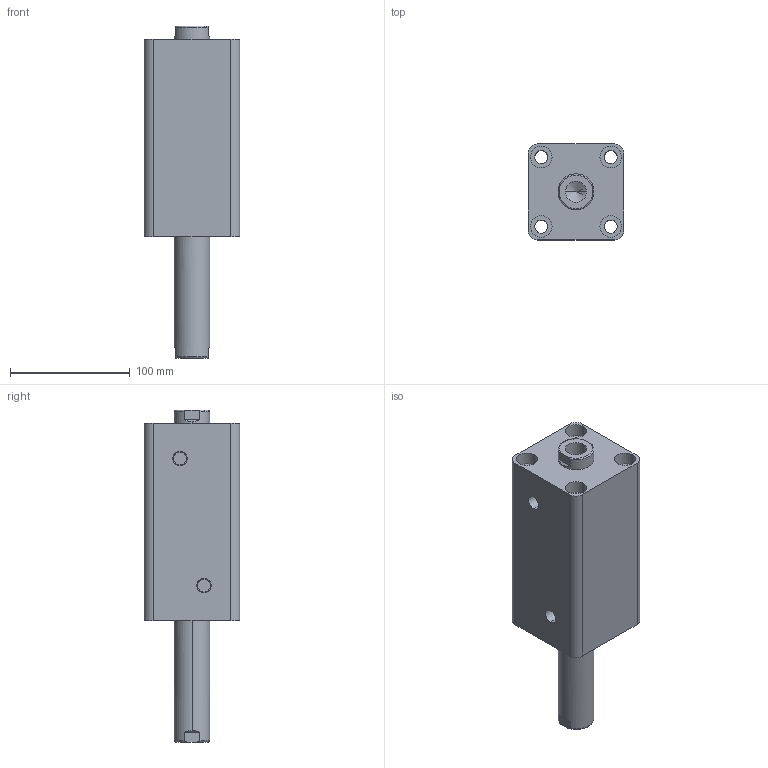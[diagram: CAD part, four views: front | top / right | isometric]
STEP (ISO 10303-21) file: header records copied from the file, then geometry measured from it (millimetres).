
FILE_DESCRIPTION (( 'STEP AP203' ), '1' );
FILE_NAME ('HTB-SW50-90N.STEP', '2019-10-07T09:25:00', ( '微软用户' ), ( '微软中国' ), 'SwSTEP 2.0', 'SolidWorks 2012', '' );
FILE_SCHEMA (( 'CONFIG_CONTROL_DESIGN' ));
Length unit declared in the file: millimetre
Products named in the file (3): HTB-SW50-90N; HTB-SW50-90N活塞杆; HTB-SW50-90掛极
Assembly tree (2 placements, depth 2):
  HTB-SW50-90N
    HTB-SW50-90掛极
    HTB-SW50-90N活塞杆
Bounding box: 80 x 80 x 277 mm (x, y, z)
Volume: 920874.5 mm3; surface area: 145581.3 mm2
Topology: 2 solids, 2 shells, 100 faces, 228 edges, 146 vertices
Faces by surface type: cylinder 48, plane 32, torus 12, cone 8
Entity records: 3237 total; most frequent: CARTESIAN_POINT 595, DIRECTION 542, ORIENTED_EDGE 448, AXIS2_PLACEMENT_3D 229, EDGE_CURVE 224, VERTEX_POINT 146, EDGE_LOOP 128, CIRCLE 124
